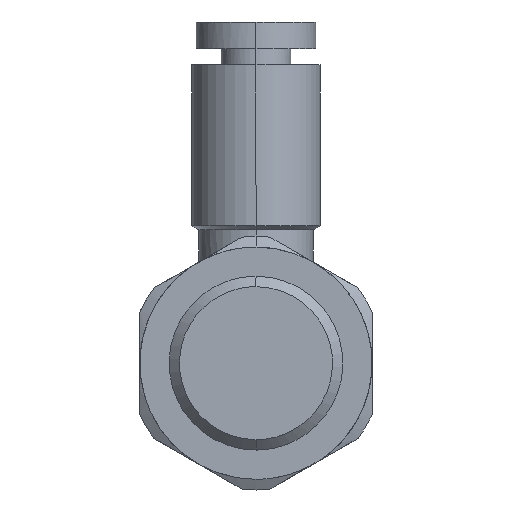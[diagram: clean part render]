
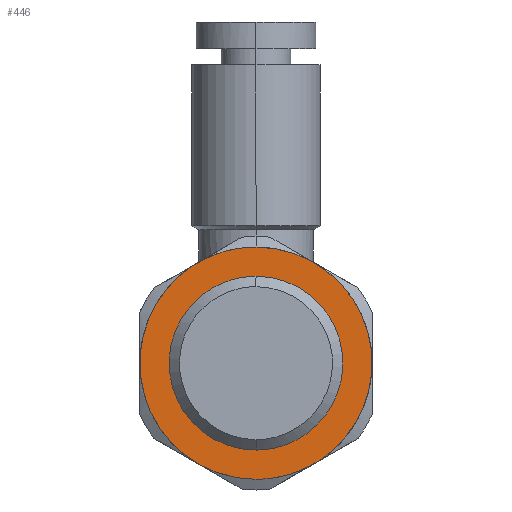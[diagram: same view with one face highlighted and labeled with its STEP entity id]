
A CAD part, front view. The second image highlights one B-rep face of the part: STEP entity #446.
In plain terms, the highlighted planar face has unit normal (0, -1, 0).
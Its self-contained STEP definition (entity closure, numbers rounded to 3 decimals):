
#24 = FACE_BOUND ( 'NONE', #1648, .T. ) ;
#35 = VERTEX_POINT ( 'NONE', #1237 ) ;
#255 = CARTESIAN_POINT ( 'NONE',  ( 0.558, 0., -4.25 ) ) ;
#273 = CARTESIAN_POINT ( 'NONE',  ( 2.128, 0., -3.682 ) ) ;
#311 = CARTESIAN_POINT ( 'NONE',  ( -13., 0., -6.5 ) ) ;
#371 = CARTESIAN_POINT ( 'NONE',  ( -0.563, 0., 4.25 ) ) ;
#446 = ADVANCED_FACE ( 'NONE', ( #24, #725 ), #1440, .T. ) ;
#485 = CARTESIAN_POINT ( 'NONE',  ( 0., 0., -4.25 ) ) ;
#503 = CARTESIAN_POINT ( 'NONE',  ( 1.755, 0., -3.873 ) ) ;
#509 = CARTESIAN_POINT ( 'NONE',  ( 0., 0., -6.5 ) ) ;
#516 = CARTESIAN_POINT ( 'NONE',  ( 4.25, 0., 0.563 ) ) ;
#557 = CARTESIAN_POINT ( 'NONE',  ( 0., 0., 6.5 ) ) ;
#600 = CARTESIAN_POINT ( 'NONE',  ( -0.563, 0., -4.25 ) ) ;
#619 = CARTESIAN_POINT ( 'NONE',  ( 0.563, 0., 4.25 ) ) ;
#647 = CARTESIAN_POINT ( 'NONE',  ( 0., 0., 6.5 ) ) ;
#725 = FACE_OUTER_BOUND ( 'NONE', #958, .T. ) ;
#768 = DIRECTION ( 'NONE',  ( 0., -1., 0. ) ) ;
#791 = ORIENTED_EDGE ( 'NONE', *, *, #2180, .T. ) ;
#810 = CARTESIAN_POINT ( 'NONE',  ( -3.404, 0., -2.607 ) ) ;
#938 = CARTESIAN_POINT ( 'NONE',  ( 3.711, 0., -2.147 ) ) ;
#958 = EDGE_LOOP ( 'NONE', ( #1401, #1358 ) ) ;
#1054 = CARTESIAN_POINT ( 'NONE',  ( 0., 0., -6.5 ) ) ;
#1059 = CARTESIAN_POINT ( 'NONE',  ( -2.147, 0., -3.711 ) ) ;
#1157 = CARTESIAN_POINT ( 'NONE',  ( 2.806, 0., -3.204 ) ) ;
#1185 = CARTESIAN_POINT ( 'NONE',  ( 3.404, 0., 2.607 ) ) ;
#1194 = CARTESIAN_POINT ( 'NONE',  ( -13., 0., 6.5 ) ) ;
#1237 = CARTESIAN_POINT ( 'NONE',  ( 0., 0., 4.25 ) ) ;
#1331 = CARTESIAN_POINT ( 'NONE',  ( -1.106, 0., -4.142 ) ) ;
#1347 = CARTESIAN_POINT ( 'NONE',  ( 3.711, 0., 2.147 ) ) ;
#1358 = ORIENTED_EDGE ( 'NONE', *, *, #2618, .F. ) ;
#1401 = ORIENTED_EDGE ( 'NONE', *, *, #1969, .F. ) ;
#1424 = DIRECTION ( 'NONE',  ( 0., 0., -1. ) ) ;
#1440 = PLANE ( 'NONE',  #2169 ) ;
#1478 = VERTEX_POINT ( 'NONE', #1570 ) ;
#1492 = CARTESIAN_POINT ( 'NONE',  ( -2.607, 0., 3.404 ) ) ;
#1509 = CARTESIAN_POINT ( 'NONE',  ( -4.25, 0., 0.563 ) ) ;
#1527 = CARTESIAN_POINT ( 'NONE',  ( -2.607, 0., -3.403 ) ) ;
#1545 = ORIENTED_EDGE ( 'NONE', *, *, #2116, .T. ) ;
#1570 = CARTESIAN_POINT ( 'NONE',  ( 0., 0., -4.25 ) ) ;
#1583 = CARTESIAN_POINT ( 'NONE',  ( 13., 0., 6.5 ) ) ;
#1640 = CARTESIAN_POINT ( 'NONE',  ( 4.142, 0., -1.106 ) ) ;
#1648 = EDGE_LOOP ( 'NONE', ( #1545, #791 ) ) ;
#1782 = CARTESIAN_POINT ( 'NONE',  ( 0., 0., 4.25 ) ) ;
#1808 = B_SPLINE_CURVE_WITH_KNOTS ( 'NONE', 3,
 ( #1959, #619, #2886, #2930, #2334, #1185, #1347, #1850, #516, #2022, #1640, #938, #2768, #1157, #2086, #273, #2101, #503, #2269, #255, #485 ),
 .UNSPECIFIED., .F., .F.,
 ( 4, 2, 2, 2, 2, 2, 2, 1, 2, 2, 4 ),
 ( 0.5, 0.563, 0.625, 0.688, 0.75, 0.813, 0.875, 0.906, 0.922, 0.938, 1. ),
 .UNSPECIFIED. ) ;
#1850 = CARTESIAN_POINT ( 'NONE',  ( 4.142, 0., 1.106 ) ) ;
#1889 = CARTESIAN_POINT ( 'NONE',  ( -6.578, 0., 6.578 ) ) ;
#1959 = CARTESIAN_POINT ( 'NONE',  ( 0., 0., 4.25 ) ) ;
#1969 = EDGE_CURVE ( 'NONE', #2001, #2868, #2652, .T. ) ;
#2001 = VERTEX_POINT ( 'NONE', #2143 ) ;
#2022 = CARTESIAN_POINT ( 'NONE',  ( 4.25, 0., -0.563 ) ) ;
#2086 = CARTESIAN_POINT ( 'NONE',  ( 2.484, 0., -3.469 ) ) ;
#2101 = CARTESIAN_POINT ( 'NONE',  ( 1.883, 0., -3.813 ) ) ;
#2116 = EDGE_CURVE ( 'NONE', #1478, #35, #2552, .T. ) ;
#2143 = CARTESIAN_POINT ( 'NONE',  ( 0., 0., -6.5 ) ) ;
#2157 = CARTESIAN_POINT ( 'NONE',  ( 0., 0., 6.5 ) ) ;
#2169 = AXIS2_PLACEMENT_3D ( 'NONE', #1889, #768, #1424 ) ;
#2180 = EDGE_CURVE ( 'NONE', #35, #1478, #1808, .T. ) ;
#2188 = CARTESIAN_POINT ( 'NONE',  ( -3.711, 0., -2.147 ) ) ;
#2221 = CARTESIAN_POINT ( 'NONE',  ( -3.403, 0., 2.607 ) ) ;
#2237 = CARTESIAN_POINT ( 'NONE',  ( -1.106, 0., 4.142 ) ) ;
#2269 = CARTESIAN_POINT ( 'NONE',  ( 1.111, 0., -4.14 ) ) ;
#2334 = CARTESIAN_POINT ( 'NONE',  ( 2.607, 0., 3.403 ) ) ;
#2447 = CARTESIAN_POINT ( 'NONE',  ( -4.142, 0., 1.106 ) ) ;
#2465 = CARTESIAN_POINT ( 'NONE',  ( -4.142, 0., -1.106 ) ) ;
#2479 = CARTESIAN_POINT ( 'NONE',  ( -2.147, 0., 3.711 ) ) ;
#2502 = CARTESIAN_POINT ( 'NONE',  ( 13., 0., -6.5 ) ) ;
#2552 = B_SPLINE_CURVE_WITH_KNOTS ( 'NONE', 3,
 ( #2649, #600, #1331, #1059, #1527, #810, #2188, #2465, #2915, #1509, #2447, #2681, #2221, #1492, #2479, #2237, #371, #1782 ),
 .UNSPECIFIED., .F., .F.,
 ( 4, 2, 2, 2, 2, 2, 2, 2, 4 ),
 ( 0., 0.063, 0.125, 0.188, 0.25, 0.313, 0.375, 0.438, 0.5 ),
 .UNSPECIFIED. ) ;
#2618 = EDGE_CURVE ( 'NONE', #2868, #2001, #2754, .T. ) ;
#2649 = CARTESIAN_POINT ( 'NONE',  ( 0., 0., -4.25 ) ) ;
#2652 =( BOUNDED_CURVE ( )  B_SPLINE_CURVE ( 3, ( #509, #311, #1194, #2157 ),
 .UNSPECIFIED., .F., .T. ) 
 B_SPLINE_CURVE_WITH_KNOTS ( ( 4, 4 ),
 ( 0., 0.5 ),
 .UNSPECIFIED. ) 
 CURVE ( )  GEOMETRIC_REPRESENTATION_ITEM ( )  RATIONAL_B_SPLINE_CURVE ( ( 1., 0.333, 0.333, 1. ) ) 
 REPRESENTATION_ITEM ( '' )  );
#2681 = CARTESIAN_POINT ( 'NONE',  ( -3.711, 0., 2.147 ) ) ;
#2754 =( BOUNDED_CURVE ( )  B_SPLINE_CURVE ( 3, ( #647, #1583, #2502, #1054 ),
 .UNSPECIFIED., .F., .T. ) 
 B_SPLINE_CURVE_WITH_KNOTS ( ( 4, 4 ),
 ( 0.5, 1. ),
 .UNSPECIFIED. ) 
 CURVE ( )  GEOMETRIC_REPRESENTATION_ITEM ( )  RATIONAL_B_SPLINE_CURVE ( ( 1., 0.333, 0.333, 1. ) ) 
 REPRESENTATION_ITEM ( '' )  );
#2768 = CARTESIAN_POINT ( 'NONE',  ( 3.403, 0., -2.607 ) ) ;
#2868 = VERTEX_POINT ( 'NONE', #557 ) ;
#2886 = CARTESIAN_POINT ( 'NONE',  ( 1.106, 0., 4.142 ) ) ;
#2915 = CARTESIAN_POINT ( 'NONE',  ( -4.25, 0., -0.563 ) ) ;
#2930 = CARTESIAN_POINT ( 'NONE',  ( 2.147, 0., 3.711 ) ) ;
